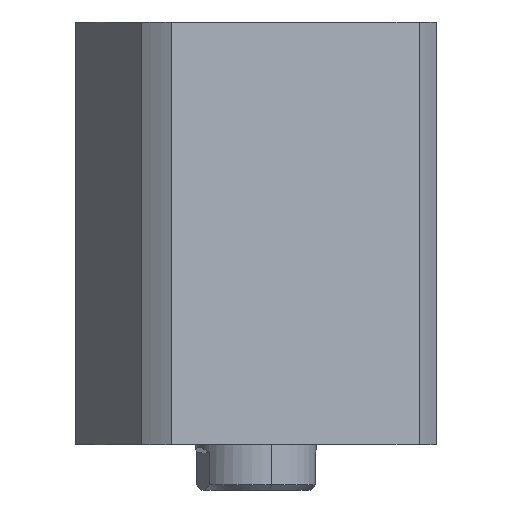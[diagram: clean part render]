
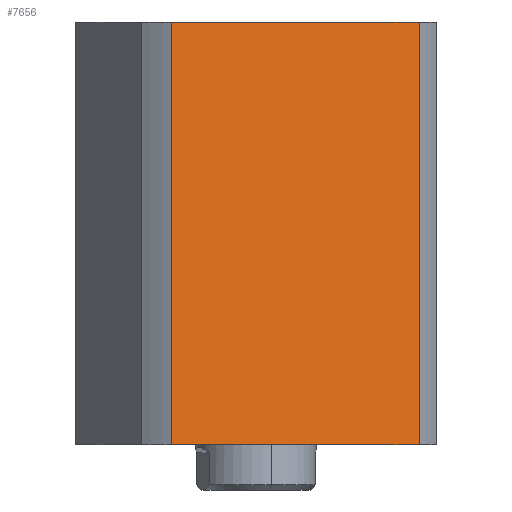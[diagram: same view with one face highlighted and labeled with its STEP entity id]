
A CAD part, front view. The second image highlights one B-rep face of the part: STEP entity #7656.
In plain terms, the highlighted planar face has unit normal (0.257, -0.967, 0) as drawn and (-1, 0, 0) by its records, which use the part's own axes.
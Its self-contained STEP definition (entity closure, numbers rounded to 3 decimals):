
#96 = ORIENTED_EDGE ( 'NONE', *, *, #10673, .F. ) ;
#294 = CARTESIAN_POINT ( 'NONE',  ( -57., -47.971, -142. ) ) ;
#437 = VECTOR ( 'NONE', #8585, 1000. ) ;
#663 = DIRECTION ( 'NONE',  ( 0., 1., 0. ) ) ;
#1266 = LINE ( 'NONE', #9565, #4423 ) ;
#1293 = DIRECTION ( 'NONE',  ( 0., -1., 0. ) ) ;
#1700 = PLANE ( 'NONE',  #10515 ) ;
#1730 = EDGE_CURVE ( 'NONE', #14229, #9779, #7297, .T. ) ;
#1757 = ORIENTED_EDGE ( 'NONE', *, *, #3231, .F. ) ;
#2518 = ORIENTED_EDGE ( 'NONE', *, *, #4545, .T. ) ;
#2642 = DIRECTION ( 'NONE',  ( 0., 0., -1. ) ) ;
#3231 = EDGE_CURVE ( 'NONE', #15088, #14229, #9432, .T. ) ;
#3961 = LINE ( 'NONE', #14435, #437 ) ;
#4142 = VECTOR ( 'NONE', #2642, 1000. ) ;
#4423 = VECTOR ( 'NONE', #1293, 1000. ) ;
#4545 = EDGE_CURVE ( 'NONE', #4591, #9779, #1266, .T. ) ;
#4591 = VERTEX_POINT ( 'NONE', #7207 ) ;
#5012 = CARTESIAN_POINT ( 'NONE',  ( -57., 47.971, 158. ) ) ;
#5375 = CARTESIAN_POINT ( 'NONE',  ( -57., 57., 158. ) ) ;
#5554 = VECTOR ( 'NONE', #7379, 1000. ) ;
#5856 = CARTESIAN_POINT ( 'NONE',  ( -57., -47.971, 0. ) ) ;
#6194 = CARTESIAN_POINT ( 'NONE',  ( -57., 57., 158. ) ) ;
#7207 = CARTESIAN_POINT ( 'NONE',  ( -57., 47.971, 0. ) ) ;
#7297 = LINE ( 'NONE', #294, #4142 ) ;
#7363 = CARTESIAN_POINT ( 'NONE',  ( -57., -47.971, 158. ) ) ;
#7379 = DIRECTION ( 'NONE',  ( 0., -1., 0. ) ) ;
#7656 = ADVANCED_FACE ( 'NONE', ( #14896 ), #1700, .F. ) ;
#7760 = DIRECTION ( 'NONE',  ( 1., 0., 0. ) ) ;
#8585 = DIRECTION ( 'NONE',  ( 0., 0., 1. ) ) ;
#9432 = LINE ( 'NONE', #6194, #5554 ) ;
#9565 = CARTESIAN_POINT ( 'NONE',  ( -57., 57., 0. ) ) ;
#9779 = VERTEX_POINT ( 'NONE', #5856 ) ;
#10515 = AXIS2_PLACEMENT_3D ( 'NONE', #5375, #7760, #663 ) ;
#10673 = EDGE_CURVE ( 'NONE', #4591, #15088, #3961, .T. ) ;
#12663 = ORIENTED_EDGE ( 'NONE', *, *, #1730, .F. ) ;
#13127 = EDGE_LOOP ( 'NONE', ( #96, #2518, #12663, #1757 ) ) ;
#14229 = VERTEX_POINT ( 'NONE', #7363 ) ;
#14435 = CARTESIAN_POINT ( 'NONE',  ( -57., 47.971, -142. ) ) ;
#14896 = FACE_OUTER_BOUND ( 'NONE', #13127, .T. ) ;
#15088 = VERTEX_POINT ( 'NONE', #5012 ) ;
